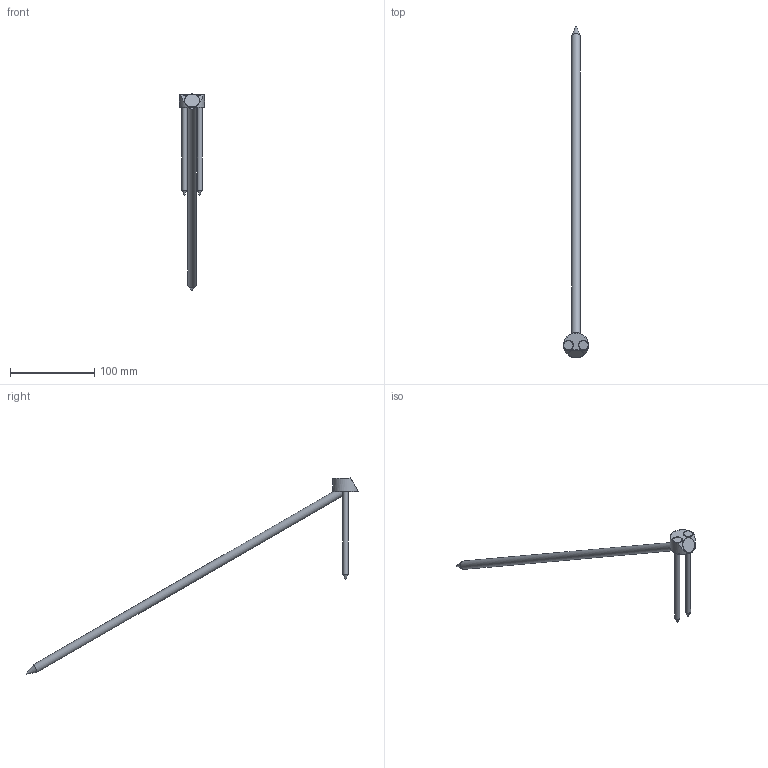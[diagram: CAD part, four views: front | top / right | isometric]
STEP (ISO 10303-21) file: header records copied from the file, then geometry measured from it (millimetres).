
FILE_DESCRIPTION(/* description */ ('Unknown'),/* implementation_level */ '2;1');
FILE_NAME(/* name */ 'T-Joint_D30_W30_2xSK6x120_1xSK10x450',/* time_stamp */ '2020-07-13T10:03:54+02:00',/* author */ ('Unknown'),/* organization */ ('Unknown'),/* preprocessor_version */ 'ST-DEVELOPER v16.7',/* originating_system */ 'DEX',/* authorisation */ $);
FILE_SCHEMA (('AUTOMOTIVE_DESIGN {1 0 10303 214 3 1 1}'));
Length unit declared in the file: millimetre
Products named in the file (4): T-Joint_D30_W30_2xSK6x120_1xSK10x450; T-Joint_D30_W30; SK Schraube 6x120_ohne_Gewinde; SK Schraube 10x450_ohne_Gewinde_22042020
Assembly tree (4 placements, depth 2):
  T-Joint_D30_W30_2xSK6x120_1xSK10x450
    T-Joint_D30_W30
    SK Schraube 6x120_ohne_Gewinde  x2
    SK Schraube 10x450_ohne_Gewinde_22042020
Bounding box: 29.76 x 394.6 x 233.21 mm (x, y, z)
Volume: 48914.1 mm3; surface area: 22543.2 mm2
Topology: 4 solids, 4 shells, 35 faces, 75 edges, 46 vertices
Faces by surface type: cylinder 12, plane 11, cone 9, torus 3
Full cylindrical faces by diameter (mm): 6 x2, 6.2 x2, 6.3 x1, 10 x2, 10.5 x1, 11 x2, 18 x1
Entity records: 804 total; most frequent: CARTESIAN_POINT 145, DIRECTION 134, ORIENTED_EDGE 82, AXIS2_PLACEMENT_3D 66, EDGE_LOOP 51, FACE_BOUND 51, EDGE_CURVE 41, VERTEX_POINT 34
